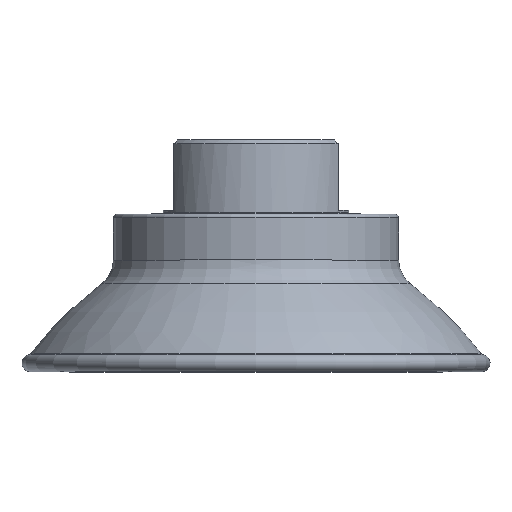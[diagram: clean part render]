
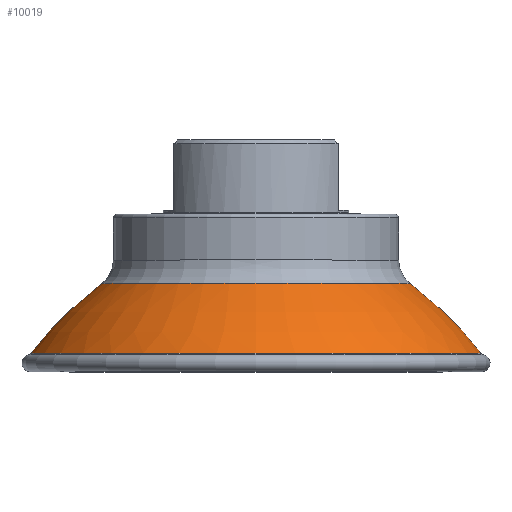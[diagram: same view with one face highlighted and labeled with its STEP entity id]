
A CAD part, top view. The second image highlights one B-rep face of the part: STEP entity #10019.
In plain terms, the highlighted toroidal (fillet/blend) face has major radius 8.745 mm and minor radius 48.969 mm.
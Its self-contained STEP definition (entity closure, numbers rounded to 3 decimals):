
#537 = CIRCLE ( 'NONE', #3655, 20.6 ) ;
#644 = CIRCLE ( 'NONE', #3200, 30.05 ) ;
#733 = EDGE_LOOP ( 'NONE', ( #12950 ) ) ;
#881 = VERTEX_POINT ( 'NONE', #3400 ) ;
#1288 = TOROIDAL_SURFACE ( 'NONE', #11533, -8.744, 48.969 ) ;
#2536 = CARTESIAN_POINT ( 'NONE',  ( 0., 2.45, 0. ) ) ;
#3200 = AXIS2_PLACEMENT_3D ( 'NONE', #2536, #12507, #6491 ) ;
#3400 = CARTESIAN_POINT ( 'NONE',  ( 0., 11.77, 20.6 ) ) ;
#3655 = AXIS2_PLACEMENT_3D ( 'NONE', #5028, #3693, #14004 ) ;
#3693 = DIRECTION ( 'NONE',  ( 0., 1., 0. ) ) ;
#4037 = EDGE_LOOP ( 'NONE', ( #8351 ) ) ;
#4330 = CARTESIAN_POINT ( 'NONE',  ( 0., -27.433, 0. ) ) ;
#4497 = DIRECTION ( 'NONE',  ( 0., 0., 1. ) ) ;
#5028 = CARTESIAN_POINT ( 'NONE',  ( 0., 11.77, 0. ) ) ;
#5727 = VERTEX_POINT ( 'NONE', #10971 ) ;
#6491 = DIRECTION ( 'NONE',  ( 0., 0., 1. ) ) ;
#8351 = ORIENTED_EDGE ( 'NONE', *, *, #10524, .F. ) ;
#9503 = FACE_OUTER_BOUND ( 'NONE', #4037, .T. ) ;
#10019 = ADVANCED_FACE ( 'NONE', ( #12212, #9503 ), #1288, .T. ) ;
#10524 = EDGE_CURVE ( 'NONE', #881, #881, #537, .T. ) ;
#10971 = CARTESIAN_POINT ( 'NONE',  ( 0., 2.45, 30.05 ) ) ;
#11533 = AXIS2_PLACEMENT_3D ( 'NONE', #4330, #14377, #4497 ) ;
#12212 = FACE_OUTER_BOUND ( 'NONE', #733, .T. ) ;
#12507 = DIRECTION ( 'NONE',  ( 0., 1., 0. ) ) ;
#12950 = ORIENTED_EDGE ( 'NONE', *, *, #14500, .T. ) ;
#14004 = DIRECTION ( 'NONE',  ( 0., 0., 1. ) ) ;
#14377 = DIRECTION ( 'NONE',  ( 0., 1., 0. ) ) ;
#14500 = EDGE_CURVE ( 'NONE', #5727, #5727, #644, .T. ) ;
